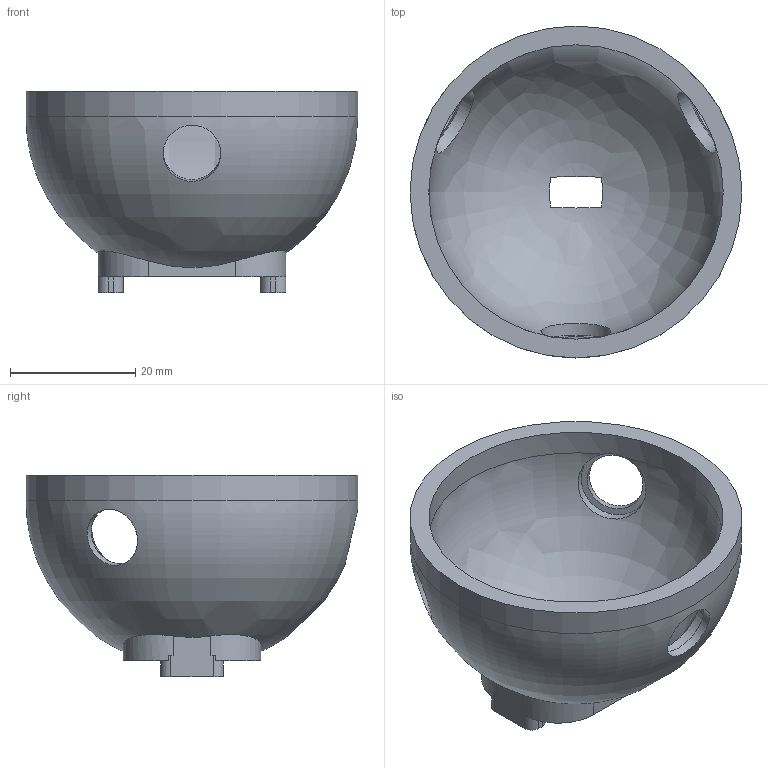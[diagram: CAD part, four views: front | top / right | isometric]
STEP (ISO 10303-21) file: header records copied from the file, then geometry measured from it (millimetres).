
FILE_DESCRIPTION(('Open CASCADE Model'),'2;1');
FILE_NAME('Open CASCADE Shape Model','2026-05-31T19:43:22',('Author'),( 'Open CASCADE'),'Open CASCADE STEP processor 7.6','Open CASCADE 7.6' ,'Unknown');
FILE_SCHEMA(('AP242_MANAGED_MODEL_BASED_3D_ENGINEERING_MIM_LF. {1 0 10303 442 1 1 4 }'));
Length unit declared in the file: millimetre
Products named in the file (1): Open CASCADE STEP translator 7.6 8
Bounding box: 53 x 53 x 32.1 mm (x, y, z)
Volume: 13303.4 mm3; surface area: 9978.7 mm2
Topology: 1 solids, 1 shells, 71 faces, 204 edges, 135 vertices
Faces by surface type: plane 35, cylinder 28, bspline 4, revolution 2, cone 2
Full cylindrical faces by diameter (mm): 2.05 x2, 9.2 x3, 11.2 x3, 47 x1, 53 x1
Entity records: 8013 total; most frequent: CARTESIAN_POINT 4063, DIRECTION 714, ORIENTED_EDGE 404, PCURVE 404, DEFINITIONAL_REPRESENTATION 404, LINE 388, VECTOR 388, EDGE_CURVE 202
